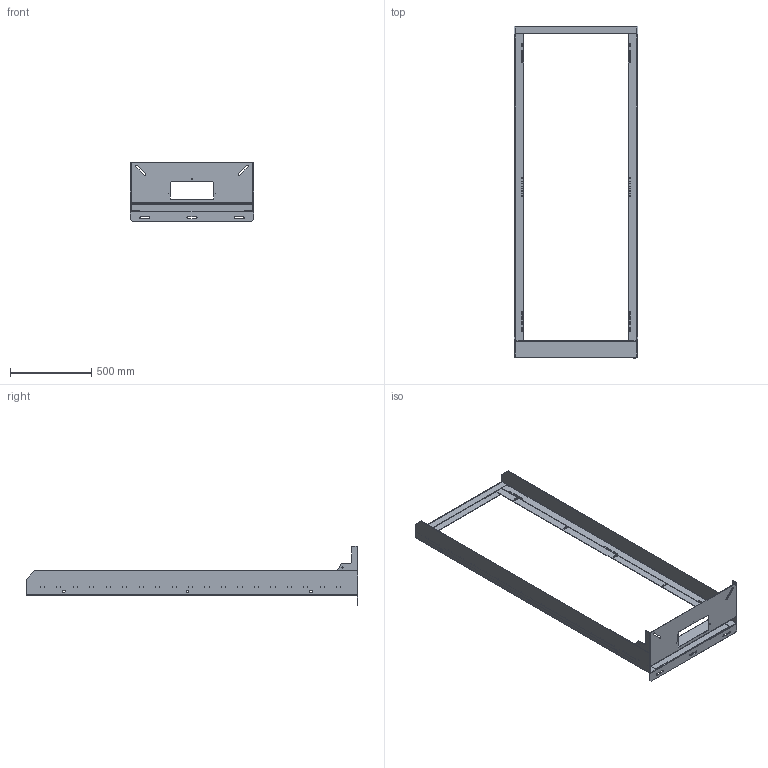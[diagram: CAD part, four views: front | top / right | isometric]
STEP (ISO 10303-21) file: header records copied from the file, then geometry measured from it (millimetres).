
FILE_DESCRIPTION (( 'STEP AP203' ), '1' );
FILE_NAME ('62462.STEP', '2026-01-12T14:31:55', ( '' ), ( '' ), 'SwSTEP 2.0', 'SolidWorks 2024', '' );
FILE_SCHEMA (( 'CONFIG_CONTROL_DESIGN' ));
Length unit declared in the file: inch
Products named in the file (8): 62462; 89250173; 89251050_WITH HELLCAT; 89251053; 89251052; 89251051; 89250174; 89250177
Assembly tree (8 placements, depth 3):
  62462
    89251050_WITH HELLCAT
      89251051
      89250173
      89250174  x2
      89251052
      89251053
      89250177
Bounding box: 759.6 x 2045.97 x 368.3 mm (x, y, z)
Volume: 5202261.4 mm3; surface area: 3291134.5 mm2
Topology: 7 solids, 7 shells, 868 faces, 2236 edges, 1438 vertices
Faces by surface type: plane 640, cylinder 228
Entity records: 24347 total; most frequent: CARTESIAN_POINT 4058, ORIENTED_EDGE 3978, DIRECTION 3949, EDGE_CURVE 1989, VECTOR 1603, LINE 1603, VERTEX_POINT 1282, AXIS2_PLACEMENT_3D 1173
